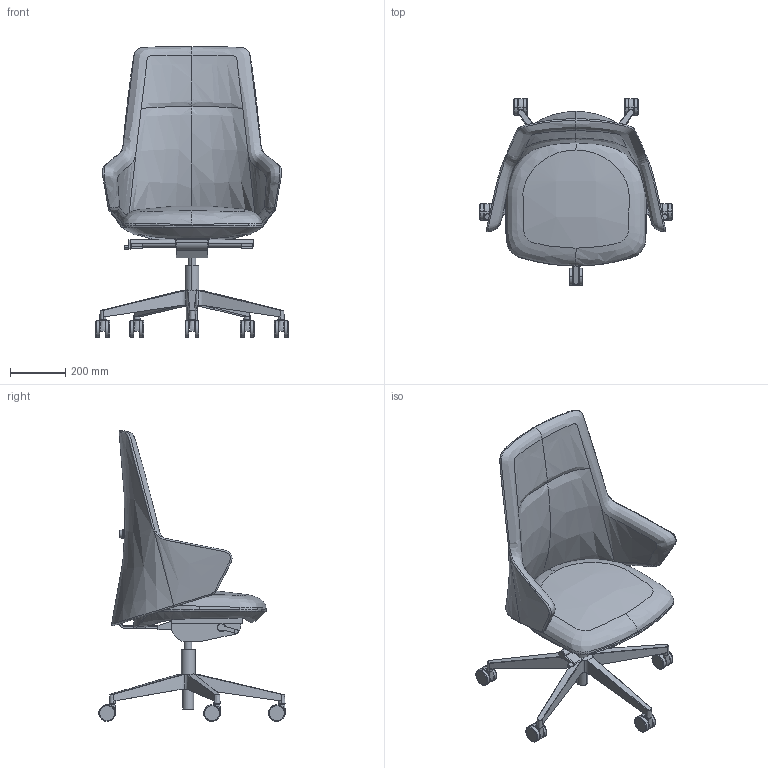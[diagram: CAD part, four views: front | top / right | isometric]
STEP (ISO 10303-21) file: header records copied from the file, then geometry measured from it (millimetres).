
FILE_DESCRIPTION(/* description */ (''),/* implementation_level */ '2;1');
FILE_NAME(/* name */ 'MELODY OFFICE 781-SYS',/* time_stamp */ '2022-10-25T23:11:42+02:00',/* author */ (''),/* organization */ (''),/* preprocessor_version */ 'ST-DEVELOPER v16.5',/* originating_system */ 'Rhino 7.23',/* authorisation */ '');
FILE_SCHEMA (('CONFIG_CONTROL_DESIGN'));
Length unit declared in the file: millimetre
Products named in the file (1): Document
Bounding box: 694.82 x 673.73 x 1051.65 mm (x, y, z)
Volume: 38360899.2 mm3; surface area: 2345707.1 mm2
Topology: 13 solids, 36 shells, 316 faces, 758 edges, 473 vertices
Faces by surface type: bspline 146, plane 127, cylinder 43
Entity records: 23896 total; most frequent: CARTESIAN_POINT 19184, ORIENTED_EDGE 1389, EDGE_CURVE 750, VERTEX_POINT 467, B_SPLINE_CURVE_WITH_KNOTS 390, EDGE_LOOP 317, ADVANCED_FACE 316, FACE_OUTER_BOUND 316
